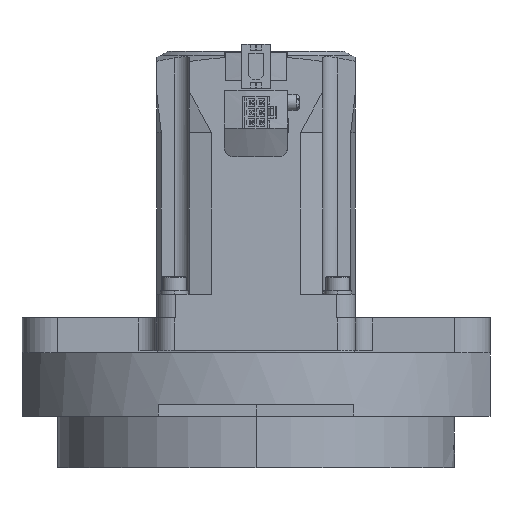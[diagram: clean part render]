
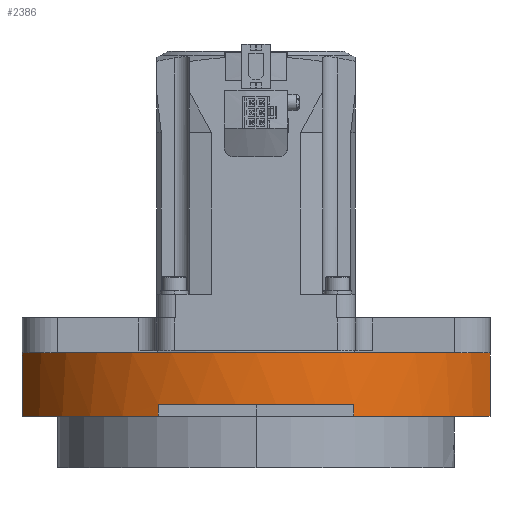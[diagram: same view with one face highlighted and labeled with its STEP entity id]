
A CAD part, front view. The second image highlights one B-rep face of the part: STEP entity #2386.
In plain terms, the highlighted cylindrical face has radius 107 mm (diameter 214 mm), a partial arc.
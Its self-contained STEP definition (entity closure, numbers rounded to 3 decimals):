
#1260 = ORIENTED_EDGE ( 'NONE', *, *, #5214, .T. ) ;
#1395 = CARTESIAN_POINT ( 'NONE',  ( 0., 95., -42. ) ) ;
#1443 = CARTESIAN_POINT ( 'NONE',  ( -41.794, -3.5, -37. ) ) ;
#1823 = CARTESIAN_POINT ( 'NONE',  ( 0., 95., -15. ) ) ;
#2125 = CIRCLE ( 'NONE', #14853, 107. ) ;
#2201 = VERTEX_POINT ( 'NONE', #27563 ) ;
#2386 = ADVANCED_FACE ( 'NONE', ( #21405 ), #24542, .T. ) ;
#2406 = DIRECTION ( 'NONE',  ( 0., 0., -1. ) ) ;
#2709 = CARTESIAN_POINT ( 'NONE',  ( 41.794, -3.5, -37. ) ) ;
#2965 = VERTEX_POINT ( 'NONE', #22238 ) ;
#3187 = EDGE_CURVE ( 'NONE', #2965, #20048, #6609, .T. ) ;
#4207 = CARTESIAN_POINT ( 'NONE',  ( 0., 95., -42. ) ) ;
#4267 = EDGE_CURVE ( 'NONE', #19427, #11985, #2125, .T. ) ;
#4525 = LINE ( 'NONE', #1443, #15364 ) ;
#5214 = EDGE_CURVE ( 'NONE', #2965, #2201, #8583, .T. ) ;
#5275 = AXIS2_PLACEMENT_3D ( 'NONE', #1823, #28921, #25816 ) ;
#5363 = AXIS2_PLACEMENT_3D ( 'NONE', #4207, #28189, #25109 ) ;
#5501 = CARTESIAN_POINT ( 'NONE',  ( -100., 56.934, 47.266 ) ) ;
#5569 = ORIENTED_EDGE ( 'NONE', *, *, #13693, .F. ) ;
#5800 = LINE ( 'NONE', #2709, #12776 ) ;
#6609 = CIRCLE ( 'NONE', #5275, 107. ) ;
#8424 = CIRCLE ( 'NONE', #5363, 107. ) ;
#8488 = CARTESIAN_POINT ( 'NONE',  ( 41.794, -3.5, -37. ) ) ;
#8583 = LINE ( 'NONE', #5501, #15080 ) ;
#10280 = CARTESIAN_POINT ( 'NONE',  ( 100., 56.934, -42. ) ) ;
#11985 = VERTEX_POINT ( 'NONE', #10280 ) ;
#12776 = VECTOR ( 'NONE', #29798, 1000. ) ;
#13693 = EDGE_CURVE ( 'NONE', #20048, #11985, #24549, .T. ) ;
#14137 = DIRECTION ( 'NONE',  ( 0., -1., 0. ) ) ;
#14853 = AXIS2_PLACEMENT_3D ( 'NONE', #1395, #19201, #16103 ) ;
#15080 = VECTOR ( 'NONE', #2406, 1000. ) ;
#15364 = VECTOR ( 'NONE', #28530, 1000. ) ;
#16044 = VERTEX_POINT ( 'NONE', #25535 ) ;
#16103 = DIRECTION ( 'NONE',  ( 1., 0., 0. ) ) ;
#16365 = ORIENTED_EDGE ( 'NONE', *, *, #18502, .T. ) ;
#17244 = DIRECTION ( 'NONE',  ( 0., 0., 1. ) ) ;
#18350 = DIRECTION ( 'NONE',  ( 0., 0., -1. ) ) ;
#18502 = EDGE_CURVE ( 'NONE', #2201, #19294, #8424, .T. ) ;
#18914 = ORIENTED_EDGE ( 'NONE', *, *, #3187, .F. ) ;
#19008 = EDGE_CURVE ( 'NONE', #22185, #19427, #5800, .T. ) ;
#19068 = AXIS2_PLACEMENT_3D ( 'NONE', #26281, #23194, #20103 ) ;
#19201 = DIRECTION ( 'NONE',  ( 0., 0., 1. ) ) ;
#19294 = VERTEX_POINT ( 'NONE', #20497 ) ;
#19427 = VERTEX_POINT ( 'NONE', #21575 ) ;
#20048 = VERTEX_POINT ( 'NONE', #26617 ) ;
#20103 = DIRECTION ( 'NONE',  ( 1., 0., 0. ) ) ;
#20328 = CARTESIAN_POINT ( 'NONE',  ( 0., 95., -37. ) ) ;
#20497 = CARTESIAN_POINT ( 'NONE',  ( -41.794, -3.5, -42. ) ) ;
#21405 = FACE_OUTER_BOUND ( 'NONE', #28958, .T. ) ;
#21437 = CARTESIAN_POINT ( 'NONE',  ( 100., 56.934, 47.266 ) ) ;
#21522 = AXIS2_PLACEMENT_3D ( 'NONE', #20328, #17244, #14137 ) ;
#21575 = CARTESIAN_POINT ( 'NONE',  ( 41.794, -3.5, -42. ) ) ;
#21765 = EDGE_CURVE ( 'NONE', #16044, #19294, #4525, .T. ) ;
#22185 = VERTEX_POINT ( 'NONE', #8488 ) ;
#22237 = ORIENTED_EDGE ( 'NONE', *, *, #4267, .T. ) ;
#22238 = CARTESIAN_POINT ( 'NONE',  ( -100., 56.934, -15. ) ) ;
#22383 = ORIENTED_EDGE ( 'NONE', *, *, #27467, .T. ) ;
#23194 = DIRECTION ( 'NONE',  ( 0., 0., 1. ) ) ;
#24542 = CYLINDRICAL_SURFACE ( 'NONE', #19068, 107. ) ;
#24549 = LINE ( 'NONE', #21437, #26719 ) ;
#25109 = DIRECTION ( 'NONE',  ( 1., 0., 0. ) ) ;
#25535 = CARTESIAN_POINT ( 'NONE',  ( -41.794, -3.5, -37. ) ) ;
#25784 = CIRCLE ( 'NONE', #21522, 107. ) ;
#25816 = DIRECTION ( 'NONE',  ( 1., 0., 0. ) ) ;
#26213 = ORIENTED_EDGE ( 'NONE', *, *, #19008, .T. ) ;
#26225 = ORIENTED_EDGE ( 'NONE', *, *, #21765, .F. ) ;
#26281 = CARTESIAN_POINT ( 'NONE',  ( 0., 95., 47.266 ) ) ;
#26617 = CARTESIAN_POINT ( 'NONE',  ( 100., 56.934, -15. ) ) ;
#26719 = VECTOR ( 'NONE', #18350, 1000. ) ;
#27467 = EDGE_CURVE ( 'NONE', #16044, #22185, #25784, .T. ) ;
#27563 = CARTESIAN_POINT ( 'NONE',  ( -100., 56.934, -42. ) ) ;
#28189 = DIRECTION ( 'NONE',  ( 0., 0., 1. ) ) ;
#28530 = DIRECTION ( 'NONE',  ( 0., 0., -1. ) ) ;
#28921 = DIRECTION ( 'NONE',  ( 0., 0., 1. ) ) ;
#28958 = EDGE_LOOP ( 'NONE', ( #16365, #26225, #22383, #26213, #22237, #5569, #18914, #1260 ) ) ;
#29798 = DIRECTION ( 'NONE',  ( 0., 0., -1. ) ) ;
